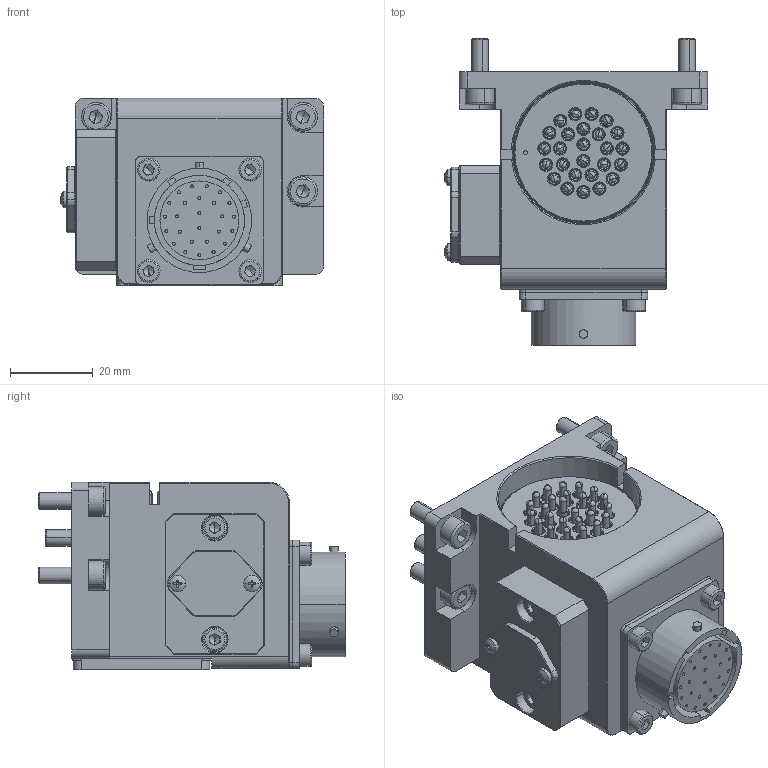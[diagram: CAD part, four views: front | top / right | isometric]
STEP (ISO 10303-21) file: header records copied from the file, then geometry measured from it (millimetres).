
FILE_DESCRIPTION (( 'STEP AP203' ), '1' );
FILE_NAME ('µçÄ£¿éID.STEP', '2023-12-21T03:14:40', ( '' ), ( '' ), 'SwSTEP 2.0', 'SolidWorks 2018', '' );
FILE_SCHEMA (( 'CONFIG_CONTROL_DESIGN' ));
Length unit declared in the file: millimetre
Products named in the file (1): 萇耀輸ID
Bounding box: 63.58 x 73.97 x 45.3 mm (x, y, z)
Volume: 112232.6 mm3; surface area: 23691.1 mm2
Topology: 1 solids, 1 shells, 1010 faces, 2406 edges, 1474 vertices
Faces by surface type: plane 444, cylinder 328, cone 156, sphere 56, torus 26
Entity records: 28434 total; most frequent: DIRECTION 5305, CARTESIAN_POINT 4961, ORIENTED_EDGE 4544, EDGE_CURVE 2272, AXIS2_PLACEMENT_3D 2068, VERTEX_POINT 1422, LINE 1169, VECTOR 1169
